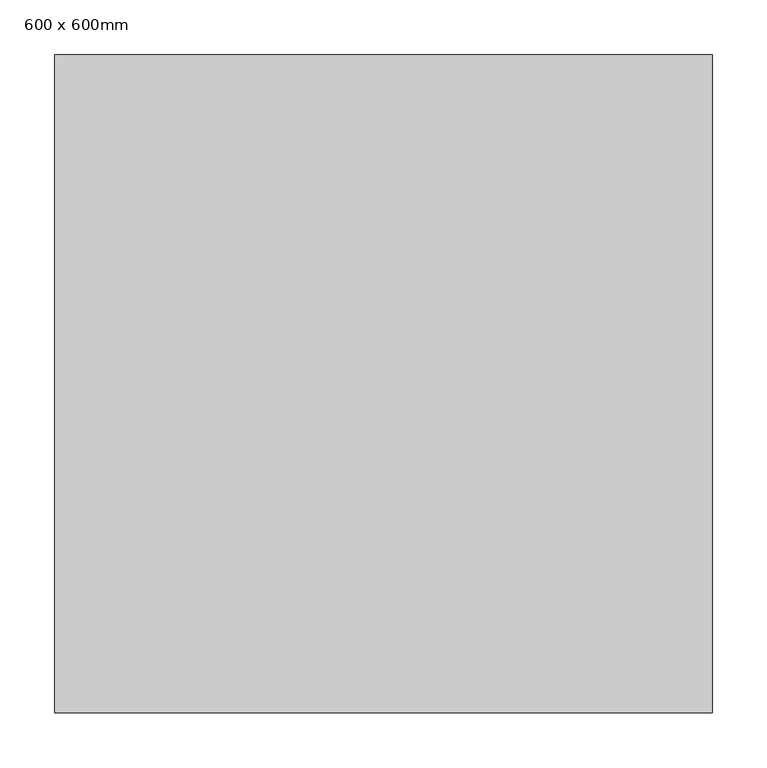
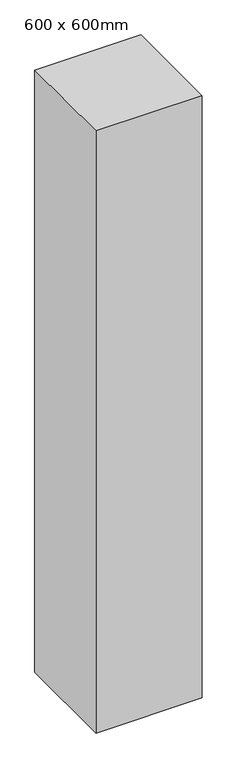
"""IFC4 building model written with IfcOpenShell, lengths in millimetres: column geometry, 混凝土 - 矩形 - 柱 : 600 x 600mm."""

from ifc_helpers import new_model, si_unit, frame, origin, place, context, project, spatial, polyline, outline, extrude, source, transform, mapped, element, save


def column_600_x_600mm_8cf2ae7c(model_context):
    return source(origin(), model_context, "Body", "SweptSolid", [
        extrude(outline(polyline([(300.0, 300.0), (300.0, -300.0), (-300.0, -300.0), (-300.0, 300.0), (300.0, 300.0)])), frame((0.0, 0.0, 3600.0), z_axis=(0.0, 0.0, 1.0), x_axis=(1.0, 0.0, 0.0)), (0.0, 0.0, 1.0), 3600.0),
    ])


if __name__ == "__main__":
    model = new_model("IFC4")
    model_context = context("Model", 3, world=origin())
    ifc_project = project(units=[si_unit("LENGTHUNIT", "METRE", prefix="MILLI")], contexts=[model_context])
    site = spatial("IfcSite", under=ifc_project)
    building = spatial("IfcBuilding", under=site)
    placement = place(None, origin())
    column_600_x_600mm_shape = column_600_x_600mm_8cf2ae7c(model_context)
    element("IfcColumn", 1, ObjectType="混凝土 - 矩形 - 柱 : 600 x 600mm", at=placement, inside=building, context=model_context, shape_type="MappedRepresentation", body=[
        mapped(column_600_x_600mm_shape, transform((0.0, 0.0, 0.0), x_axis=(1.0, 0.0, 0.0), y_axis=(0.0, 1.0, 0.0), z_axis=(0.0, 0.0, 1.0))),
    ])
    save(model, "model.ifc")
